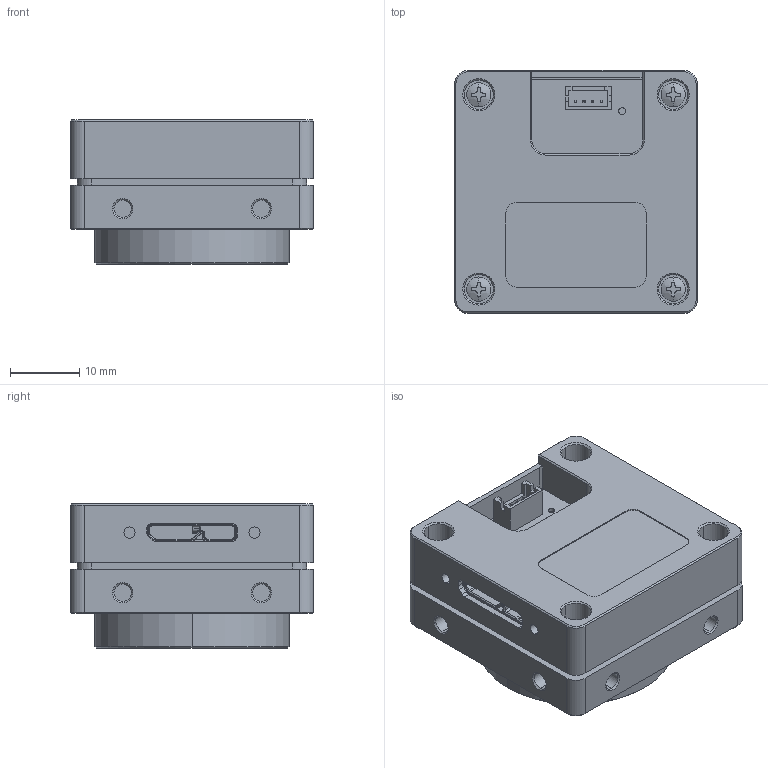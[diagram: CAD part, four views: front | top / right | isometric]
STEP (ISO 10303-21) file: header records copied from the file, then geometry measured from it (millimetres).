
FILE_DESCRIPTION (( 'STEP AP203' ), '1' );
FILE_NAME ('ven_161-61_u3(cs-mount)_user_s1.0.0.STEP', '2020-06-11T06:05:48', ( 'DH' ), ( '' ), 'SwSTEP 2.0', 'SolidWorks 2016', '' );
FILE_SCHEMA (( 'CONFIG_CONTROL_DESIGN' ));
Length unit declared in the file: millimetre
Products named in the file (1): ven_161-61_u3(cs-mount)_user_s1.0.0
Bounding box: 35 x 35 x 20.8 mm (x, y, z)
Volume: 14534.6 mm3; surface area: 10376.3 mm2
Topology: 1 solids, 18 shells, 1153 faces, 3213 edges, 2082 vertices
Faces by surface type: plane 653, cylinder 416, cone 64, torus 12, bspline 8
Entity records: 38054 total; most frequent: CARTESIAN_POINT 8159, ORIENTED_EDGE 6426, DIRECTION 6006, EDGE_CURVE 3213, VECTOR 2134, LINE 2134, VERTEX_POINT 2082, AXIS2_PLACEMENT_3D 1936
